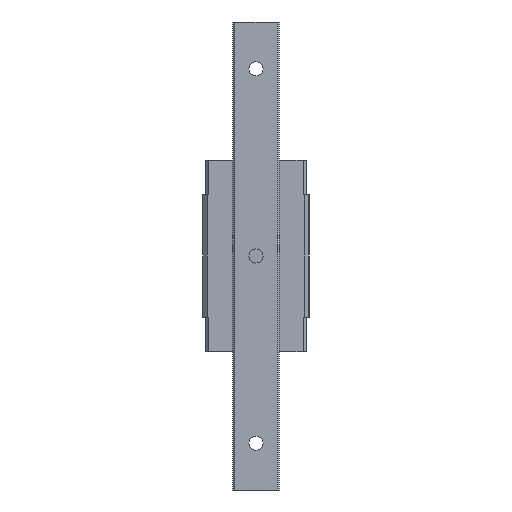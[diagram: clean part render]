
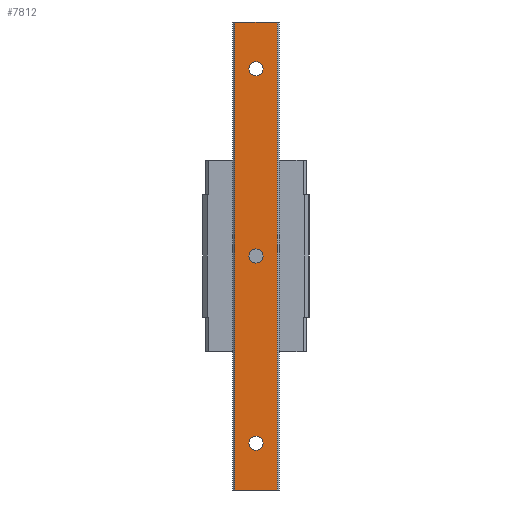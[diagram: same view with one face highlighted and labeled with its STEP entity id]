
A CAD part, front view. The second image highlights one B-rep face of the part: STEP entity #7812.
In plain terms, the highlighted planar face has unit normal (0, -1, 0).
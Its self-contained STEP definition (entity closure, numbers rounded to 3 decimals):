
#142 = FACE_BOUND ( 'NONE', #4193, .T. ) ;
#348 = DIRECTION ( 'NONE',  ( 0., 0., 1. ) ) ;
#400 = AXIS2_PLACEMENT_3D ( 'NONE', #9848, #6323, #3590 ) ;
#431 = DIRECTION ( 'NONE',  ( -1., 0., 0. ) ) ;
#476 = DIRECTION ( 'NONE',  ( -1., 0., 0. ) ) ;
#533 = ORIENTED_EDGE ( 'NONE', *, *, #1669, .T. ) ;
#953 = VECTOR ( 'NONE', #431, 1000. ) ;
#1002 = FACE_BOUND ( 'NONE', #9288, .T. ) ;
#1189 = CARTESIAN_POINT ( 'NONE',  ( 0., -15., 60. ) ) ;
#1377 = VERTEX_POINT ( 'NONE', #4425 ) ;
#1562 = DIRECTION ( 'NONE',  ( -1., 0., 0. ) ) ;
#1669 = EDGE_CURVE ( 'NONE', #11362, #5923, #2095, .T. ) ;
#1771 = ORIENTED_EDGE ( 'NONE', *, *, #11124, .T. ) ;
#1883 = ORIENTED_EDGE ( 'NONE', *, *, #10596, .T. ) ;
#1973 = CARTESIAN_POINT ( 'NONE',  ( -6.8, -15., -75. ) ) ;
#2095 = CIRCLE ( 'NONE', #400, 2.25 ) ;
#2142 = EDGE_CURVE ( 'NONE', #5465, #6398, #9712, .T. ) ;
#2539 = EDGE_CURVE ( 'NONE', #1377, #3970, #6801, .T. ) ;
#2555 = EDGE_CURVE ( 'NONE', #7461, #4378, #9565, .T. ) ;
#2643 = CIRCLE ( 'NONE', #5339, 2.25 ) ;
#2846 = DIRECTION ( 'NONE',  ( -1., 0., 0. ) ) ;
#2901 = CARTESIAN_POINT ( 'NONE',  ( 0., -15., 0. ) ) ;
#2947 = VECTOR ( 'NONE', #10154, 1000. ) ;
#2991 = DIRECTION ( 'NONE',  ( -1., 0., 0. ) ) ;
#2997 = LINE ( 'NONE', #6640, #953 ) ;
#3344 = CIRCLE ( 'NONE', #8871, 2.25 ) ;
#3481 = DIRECTION ( 'NONE',  ( 0., 1., 0. ) ) ;
#3546 = CARTESIAN_POINT ( 'NONE',  ( 0., -15., 0. ) ) ;
#3590 = DIRECTION ( 'NONE',  ( -1., 0., 0. ) ) ;
#3646 = EDGE_LOOP ( 'NONE', ( #533, #5578 ) ) ;
#3970 = VERTEX_POINT ( 'NONE', #10425 ) ;
#4193 = EDGE_LOOP ( 'NONE', ( #8160, #10999 ) ) ;
#4378 = VERTEX_POINT ( 'NONE', #5387 ) ;
#4397 = LINE ( 'NONE', #8041, #11480 ) ;
#4405 = AXIS2_PLACEMENT_3D ( 'NONE', #1189, #8715, #476 ) ;
#4425 = CARTESIAN_POINT ( 'NONE',  ( 6.8, -15., -75. ) ) ;
#4471 = EDGE_CURVE ( 'NONE', #4378, #7461, #3344, .T. ) ;
#4556 = AXIS2_PLACEMENT_3D ( 'NONE', #3546, #3481, #1562 ) ;
#4570 = ORIENTED_EDGE ( 'NONE', *, *, #7810, .T. ) ;
#4803 = CARTESIAN_POINT ( 'NONE',  ( -6.8, -15., -75. ) ) ;
#4878 = CARTESIAN_POINT ( 'NONE',  ( -6.8, -15., -75. ) ) ;
#5339 = AXIS2_PLACEMENT_3D ( 'NONE', #2901, #7612, #2846 ) ;
#5387 = CARTESIAN_POINT ( 'NONE',  ( -2.25, -15., 60. ) ) ;
#5409 = EDGE_CURVE ( 'NONE', #3970, #7523, #2997, .T. ) ;
#5465 = VERTEX_POINT ( 'NONE', #11772 ) ;
#5578 = ORIENTED_EDGE ( 'NONE', *, *, #10218, .T. ) ;
#5600 = DIRECTION ( 'NONE',  ( 0., 0., -1. ) ) ;
#5658 = FACE_OUTER_BOUND ( 'NONE', #9969, .T. ) ;
#5881 = CARTESIAN_POINT ( 'NONE',  ( 2.25, -15., 60. ) ) ;
#5923 = VERTEX_POINT ( 'NONE', #7789 ) ;
#6212 = DIRECTION ( 'NONE',  ( -1., 0., 0. ) ) ;
#6321 = CARTESIAN_POINT ( 'NONE',  ( 0., -15., -60. ) ) ;
#6323 = DIRECTION ( 'NONE',  ( 0., 1., 0. ) ) ;
#6398 = VERTEX_POINT ( 'NONE', #9387 ) ;
#6569 = DIRECTION ( 'NONE',  ( 0., 1., 0. ) ) ;
#6586 = LINE ( 'NONE', #1973, #2947 ) ;
#6640 = CARTESIAN_POINT ( 'NONE',  ( -6.8, -15., 75. ) ) ;
#6801 = LINE ( 'NONE', #6849, #8031 ) ;
#6849 = CARTESIAN_POINT ( 'NONE',  ( 6.8, -15., -75. ) ) ;
#7461 = VERTEX_POINT ( 'NONE', #5881 ) ;
#7497 = CARTESIAN_POINT ( 'NONE',  ( -2.25, -15., -60. ) ) ;
#7501 = PLANE ( 'NONE',  #9345 ) ;
#7523 = VERTEX_POINT ( 'NONE', #10228 ) ;
#7574 = ORIENTED_EDGE ( 'NONE', *, *, #2539, .T. ) ;
#7612 = DIRECTION ( 'NONE',  ( 0., 1., 0. ) ) ;
#7789 = CARTESIAN_POINT ( 'NONE',  ( 2.25, -15., -60. ) ) ;
#7810 = EDGE_CURVE ( 'NONE', #6398, #5465, #2643, .T. ) ;
#7812 = ADVANCED_FACE ( 'NONE', ( #1002, #10234, #142, #5658 ), #7501, .T. ) ;
#7859 = VERTEX_POINT ( 'NONE', #4803 ) ;
#8031 = VECTOR ( 'NONE', #348, 1000. ) ;
#8041 = CARTESIAN_POINT ( 'NONE',  ( -6.8, -15., -75. ) ) ;
#8160 = ORIENTED_EDGE ( 'NONE', *, *, #4471, .T. ) ;
#8167 = DIRECTION ( 'NONE',  ( 0., 1., 0. ) ) ;
#8521 = DIRECTION ( 'NONE',  ( 0., -1., 0. ) ) ;
#8715 = DIRECTION ( 'NONE',  ( 0., 1., 0. ) ) ;
#8871 = AXIS2_PLACEMENT_3D ( 'NONE', #11072, #6569, #2991 ) ;
#9288 = EDGE_LOOP ( 'NONE', ( #4570, #11038 ) ) ;
#9345 = AXIS2_PLACEMENT_3D ( 'NONE', #4878, #8521, #5600 ) ;
#9387 = CARTESIAN_POINT ( 'NONE',  ( -2.25, -15., 0. ) ) ;
#9419 = CIRCLE ( 'NONE', #10910, 2.25 ) ;
#9565 = CIRCLE ( 'NONE', #4405, 2.25 ) ;
#9691 = ORIENTED_EDGE ( 'NONE', *, *, #5409, .T. ) ;
#9712 = CIRCLE ( 'NONE', #4556, 2.25 ) ;
#9848 = CARTESIAN_POINT ( 'NONE',  ( 0., -15., -60. ) ) ;
#9969 = EDGE_LOOP ( 'NONE', ( #1771, #1883, #7574, #9691 ) ) ;
#10154 = DIRECTION ( 'NONE',  ( 0., 0., -1. ) ) ;
#10218 = EDGE_CURVE ( 'NONE', #5923, #11362, #9419, .T. ) ;
#10228 = CARTESIAN_POINT ( 'NONE',  ( -6.8, -15., 75. ) ) ;
#10234 = FACE_BOUND ( 'NONE', #3646, .T. ) ;
#10425 = CARTESIAN_POINT ( 'NONE',  ( 6.8, -15., 75. ) ) ;
#10596 = EDGE_CURVE ( 'NONE', #7859, #1377, #4397, .T. ) ;
#10910 = AXIS2_PLACEMENT_3D ( 'NONE', #6321, #8167, #6212 ) ;
#10999 = ORIENTED_EDGE ( 'NONE', *, *, #2555, .T. ) ;
#11038 = ORIENTED_EDGE ( 'NONE', *, *, #2142, .T. ) ;
#11072 = CARTESIAN_POINT ( 'NONE',  ( 0., -15., 60. ) ) ;
#11124 = EDGE_CURVE ( 'NONE', #7523, #7859, #6586, .T. ) ;
#11362 = VERTEX_POINT ( 'NONE', #7497 ) ;
#11480 = VECTOR ( 'NONE', #11653, 1000. ) ;
#11653 = DIRECTION ( 'NONE',  ( 1., 0., 0. ) ) ;
#11772 = CARTESIAN_POINT ( 'NONE',  ( 2.25, -15., 0. ) ) ;
